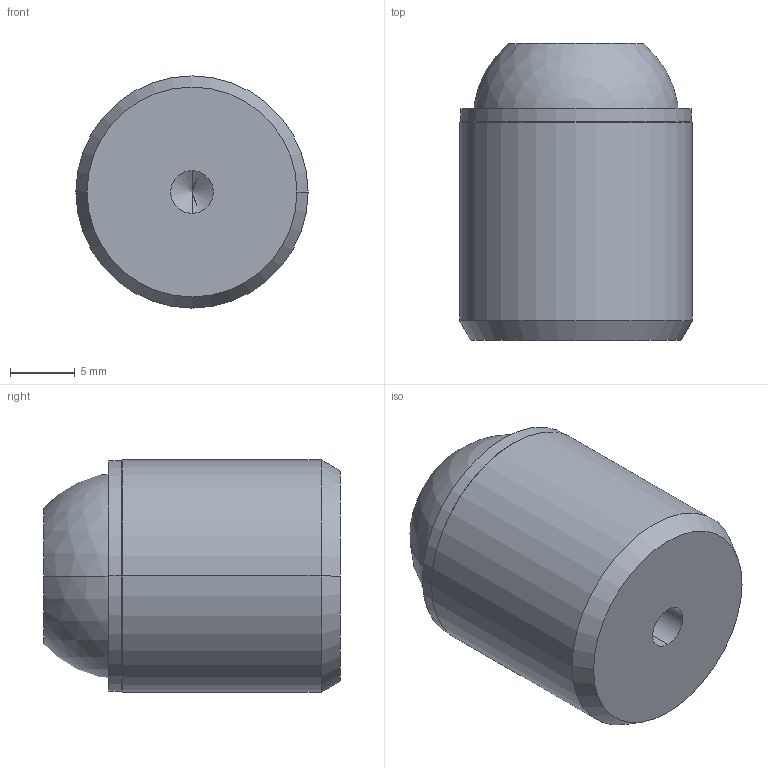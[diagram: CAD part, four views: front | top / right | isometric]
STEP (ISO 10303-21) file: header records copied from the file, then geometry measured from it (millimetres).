
FILE_DESCRIPTION (( 'STEP AP214' ), '1' );
FILE_NAME ('709.2-18-BR.step', '2023-01-26T12:37:50', ( '' ), ( '' ), 'SwSTEP 2.0', 'SolidWorks 2022', '' );
FILE_SCHEMA (( 'AUTOMOTIVE_DESIGN' ));
Length unit declared in the file: millimetre
Products named in the file (3): WB709.2_Gehäuse^WB709.2_18-RH; WB709.2_Kugel^WB709.2_16-B; 709.2-18-BR
Assembly tree (2 placements, depth 2):
  709.2-18-BR
    WB709.2_Gehäuse^WB709.2_18-RH
    WB709.2_Kugel^WB709.2_16-B
Bounding box: 18 x 23 x 18 mm (x, y, z)
Volume: 5219.8 mm3; surface area: 2575.9 mm2
Topology: 2 solids, 2 shells, 21 faces, 50 edges, 29 vertices
Faces by surface type: cylinder 6, cone 6, plane 5, sphere 4
Entity records: 654 total; most frequent: DIRECTION 116, CARTESIAN_POINT 87, ORIENTED_EDGE 76, AXIS2_PLACEMENT_3D 52, EDGE_CURVE 38, CIRCLE 26, VERTEX_POINT 23, EDGE_LOOP 23
